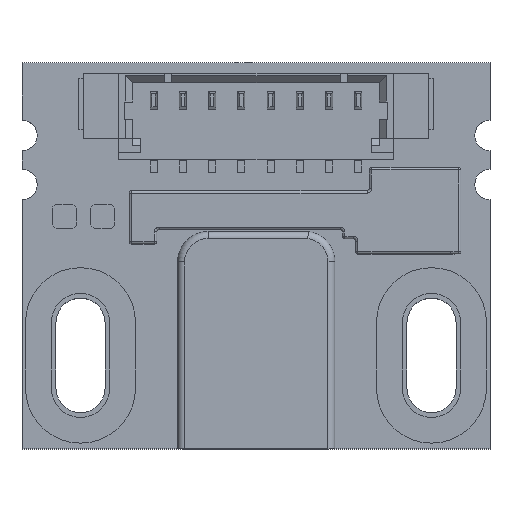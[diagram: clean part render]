
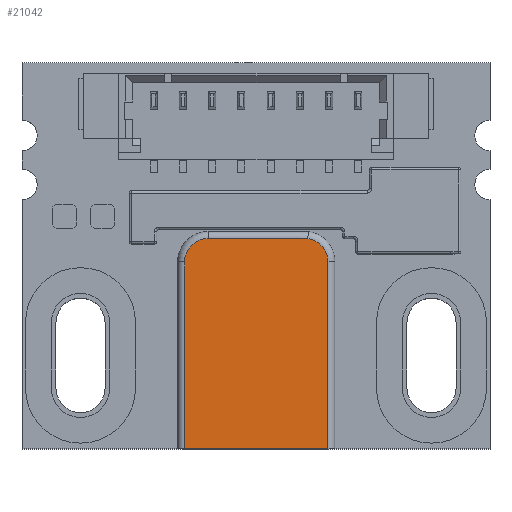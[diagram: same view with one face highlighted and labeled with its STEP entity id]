
A CAD part, top view. The second image highlights one B-rep face of the part: STEP entity #21042.
In plain terms, the highlighted planar face has unit normal (0, 0, 1).
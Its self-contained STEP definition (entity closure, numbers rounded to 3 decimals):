
#348 = DIRECTION ( 'NONE',  ( 0., 1., 0. ) ) ;
#349 = AXIS2_PLACEMENT_3D ( 'NONE', #3446, #1030, #25090 ) ;
#828 = ORIENTED_EDGE ( 'NONE', *, *, #1950, .T. ) ;
#1030 = DIRECTION ( 'NONE',  ( 0., 0., 1. ) ) ;
#1124 = FACE_OUTER_BOUND ( 'NONE', #4945, .T. ) ;
#1784 = CARTESIAN_POINT ( 'NONE',  ( 6.75, 10.765, 1.013 ) ) ;
#1950 = EDGE_CURVE ( 'NONE', #27675, #7327, #27247, .T. ) ;
#2172 = CARTESIAN_POINT ( 'NONE',  ( 6.75, 10.765, 1.013 ) ) ;
#2465 = CARTESIAN_POINT ( 'NONE',  ( 5.75, 1.775, 1.013 ) ) ;
#3446 = CARTESIAN_POINT ( 'NONE',  ( 6.75, 9.765, 1.013 ) ) ;
#4089 = LINE ( 'NONE', #17054, #19673 ) ;
#4369 = DIRECTION ( 'NONE',  ( 0., 1., 0. ) ) ;
#4758 = ORIENTED_EDGE ( 'NONE', *, *, #21129, .T. ) ;
#4945 = EDGE_LOOP ( 'NONE', ( #12497, #4758, #828, #21280, #6947, #16462 ) ) ;
#5302 = DIRECTION ( 'NONE',  ( 1., 0., 0. ) ) ;
#5726 = CIRCLE ( 'NONE', #349, 1. ) ;
#5727 = DIRECTION ( 'NONE',  ( -1., 0., 0. ) ) ;
#6174 = AXIS2_PLACEMENT_3D ( 'NONE', #20836, #8567, #4369 ) ;
#6725 = VECTOR ( 'NONE', #9133, 1000. ) ;
#6947 = ORIENTED_EDGE ( 'NONE', *, *, #17038, .T. ) ;
#7327 = VERTEX_POINT ( 'NONE', #25016 ) ;
#8458 = EDGE_CURVE ( 'NONE', #22787, #15228, #14442, .T. ) ;
#8567 = DIRECTION ( 'NONE',  ( 0., 0., -1. ) ) ;
#8602 = CARTESIAN_POINT ( 'NONE',  ( 11.015, 10.765, 1.013 ) ) ;
#9133 = DIRECTION ( 'NONE',  ( 0., 1., 0. ) ) ;
#10034 = VERTEX_POINT ( 'NONE', #10861 ) ;
#10487 = VECTOR ( 'NONE', #5727, 1000. ) ;
#10719 = EDGE_CURVE ( 'NONE', #15228, #16382, #5726, .T. ) ;
#10861 = CARTESIAN_POINT ( 'NONE',  ( 11.873, 9.775, 1.013 ) ) ;
#12368 = DIRECTION ( 'NONE',  ( 0., -1., 0. ) ) ;
#12497 = ORIENTED_EDGE ( 'NONE', *, *, #10719, .T. ) ;
#13499 = CARTESIAN_POINT ( 'NONE',  ( 5.75, 9.765, 1.013 ) ) ;
#14442 = LINE ( 'NONE', #1784, #10487 ) ;
#14482 = VECTOR ( 'NONE', #5302, 1000. ) ;
#15142 = CARTESIAN_POINT ( 'NONE',  ( 10.873, 9.775, 1.013 ) ) ;
#15228 = VERTEX_POINT ( 'NONE', #2172 ) ;
#15794 = LINE ( 'NONE', #20133, #6725 ) ;
#16321 = EDGE_CURVE ( 'NONE', #7327, #10034, #15794, .T. ) ;
#16382 = VERTEX_POINT ( 'NONE', #13499 ) ;
#16462 = ORIENTED_EDGE ( 'NONE', *, *, #8458, .T. ) ;
#17038 = EDGE_CURVE ( 'NONE', #10034, #22787, #22926, .T. ) ;
#17054 = CARTESIAN_POINT ( 'NONE',  ( 5.75, 9.765, 1.013 ) ) ;
#18027 = AXIS2_PLACEMENT_3D ( 'NONE', #15142, #27773, #348 ) ;
#19673 = VECTOR ( 'NONE', #12368, 1000. ) ;
#20133 = CARTESIAN_POINT ( 'NONE',  ( 11.873, 9.765, 1.013 ) ) ;
#20836 = CARTESIAN_POINT ( 'NONE',  ( 6.75, 9.765, 1.013 ) ) ;
#21042 = ADVANCED_FACE ( 'NONE', ( #1124 ), #25045, .F. ) ;
#21129 = EDGE_CURVE ( 'NONE', #16382, #27675, #4089, .T. ) ;
#21280 = ORIENTED_EDGE ( 'NONE', *, *, #16321, .T. ) ;
#22787 = VERTEX_POINT ( 'NONE', #8602 ) ;
#22926 = CIRCLE ( 'NONE', #18027, 1. ) ;
#24573 = CARTESIAN_POINT ( 'NONE',  ( 5.45, 1.775, 1.013 ) ) ;
#25016 = CARTESIAN_POINT ( 'NONE',  ( 11.873, 1.775, 1.013 ) ) ;
#25045 = PLANE ( 'NONE',  #6174 ) ;
#25090 = DIRECTION ( 'NONE',  ( 0., 1., 0. ) ) ;
#27247 = LINE ( 'NONE', #24573, #14482 ) ;
#27675 = VERTEX_POINT ( 'NONE', #2465 ) ;
#27773 = DIRECTION ( 'NONE',  ( 0., 0., 1. ) ) ;
